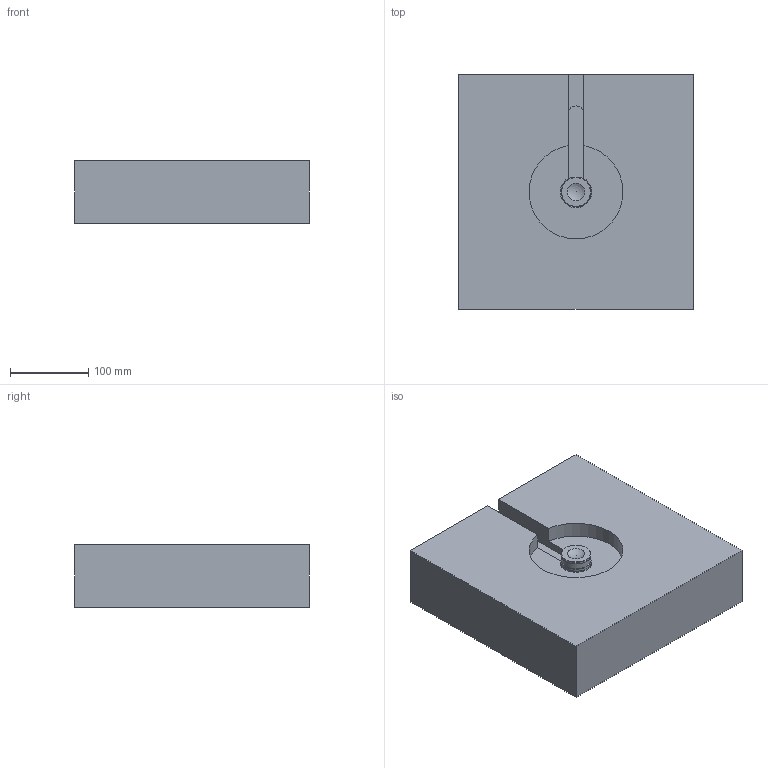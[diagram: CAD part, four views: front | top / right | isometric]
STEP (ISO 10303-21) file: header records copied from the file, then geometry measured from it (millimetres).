
FILE_DESCRIPTION( ( 'STEP AP214' ), '1' );
FILE_NAME( 'S:/PROIECTE_YUDO_2009/PROIECTE YUDO 3D/BIS/YUEU09-BIS18CF075_1/YUEU09-BIS18CF075.step', '2009-06-23T05:28:51', ( ' ' ), ( ' ' ), 'XStep 1.0', ' ', ' ' );
FILE_SCHEMA( ( 'automotive_design' ) );
Length unit declared in the file: millimetre
Products named in the file (5): 1; 2; 3; 4; 5
Bounding box: 300 x 300 x 80 mm (x, y, z)
Volume: 6916469.4 mm3; surface area: 311326.2 mm2
Topology: 5 solids, 5 shells, 151 faces, 368 edges, 238 vertices
Faces by surface type: plane 64, cylinder 51, cone 21, torus 12, sphere 2, bspline 1
Full cylindrical faces by diameter (mm): 1.7 x2, 8 x2, 14 x1, 17 x1, 17.1 x1, 18 x2, 18.2 x1, 18.25 x1, 19 x1, 20 x2, 24 x2, 25.1 x1, 28 x3, 28.62 x1, 32 x1, 37 x1, 38 x2
Entity records: 5529 total; most frequent: CARTESIAN_POINT 888, DIRECTION 718, ORIENTED_EDGE 610, EDGE_CURVE 305, AXIS2_PLACEMENT_3D 294, VERTEX_POINT 232, EDGE_LOOP 229, FACE_OUTER_BOUND 190
